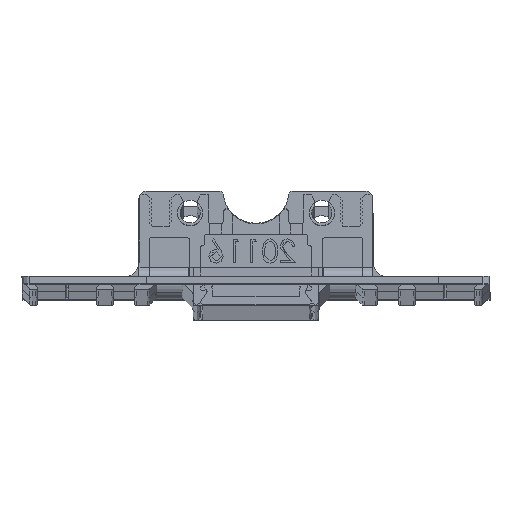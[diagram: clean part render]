
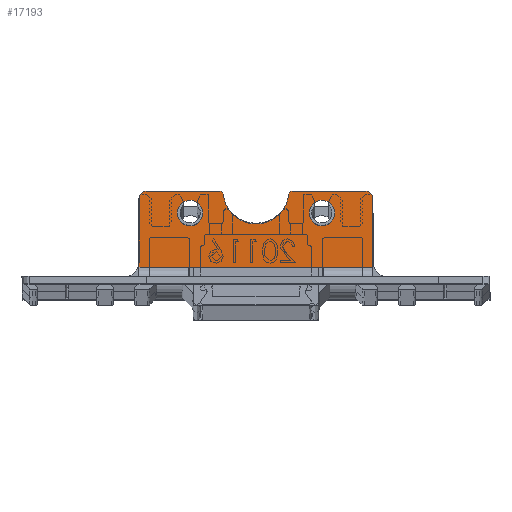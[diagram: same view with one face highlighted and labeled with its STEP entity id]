
A CAD part, top view. The second image highlights one B-rep face of the part: STEP entity #17193.
In plain terms, the highlighted planar face has unit normal (0, 0, 1) as drawn and (0, 0, -1) by its records, which use the part's own axes.
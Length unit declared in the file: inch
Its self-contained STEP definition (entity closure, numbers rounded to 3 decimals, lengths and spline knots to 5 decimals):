
#102 = CARTESIAN_POINT ( 'NONE',  ( 0.62992, 0.05, 0.05 ) ) ;
#500 = DIRECTION ( 'NONE',  ( 0., 0., 1. ) ) ;
#671 = CARTESIAN_POINT ( 'NONE',  ( 0.35433, 0.34252, 0.05 ) ) ;
#672 = CARTESIAN_POINT ( 'NONE',  ( 0.59055, 0.42126, 0.05 ) ) ;
#740 = EDGE_CURVE ( 'NONE', #5243, #17306, #959, .T. ) ;
#959 = LINE ( 'NONE', #13171, #8103 ) ;
#1015 = ORIENTED_EDGE ( 'NONE', *, *, #9947, .T. ) ;
#1080 = AXIS2_PLACEMENT_3D ( 'NONE', #10902, #9379, #2863 ) ;
#1181 = CARTESIAN_POINT ( 'NONE',  ( -0.59055, 0.46063, 0.05 ) ) ;
#1410 = ORIENTED_EDGE ( 'NONE', *, *, #7865, .T. ) ;
#1473 = VERTEX_POINT ( 'NONE', #13284 ) ;
#1632 = VECTOR ( 'NONE', #11829, 39.37008 ) ;
#1737 = VERTEX_POINT ( 'NONE', #16805 ) ;
#1841 = CIRCLE ( 'NONE', #3840, 0.0689 ) ;
#2124 = EDGE_CURVE ( 'NONE', #4856, #3633, #1841, .T. ) ;
#2170 = DIRECTION ( 'NONE',  ( 0., 0., -1. ) ) ;
#2206 = DIRECTION ( 'NONE',  ( -1., 0., 0. ) ) ;
#2339 = DIRECTION ( 'NONE',  ( -1., 0., 0. ) ) ;
#2432 = ORIENTED_EDGE ( 'NONE', *, *, #4843, .F. ) ;
#2495 = DIRECTION ( 'NONE',  ( -1., 0., 0. ) ) ;
#2622 = VERTEX_POINT ( 'NONE', #12866 ) ;
#2863 = DIRECTION ( 'NONE',  ( -1., 0., 0. ) ) ;
#3077 = EDGE_CURVE ( 'NONE', #12885, #17306, #16381, .T. ) ;
#3109 = CARTESIAN_POINT ( 'NONE',  ( -0.17628, 0.44291, 0.05 ) ) ;
#3333 = CIRCLE ( 'NONE', #12466, 0.0689 ) ;
#3566 = ORIENTED_EDGE ( 'NONE', *, *, #16196, .F. ) ;
#3633 = VERTEX_POINT ( 'NONE', #6075 ) ;
#3710 = DIRECTION ( 'NONE',  ( 1., 0., 0. ) ) ;
#3750 = DIRECTION ( 'NONE',  ( 0., 0., 1. ) ) ;
#3799 = LINE ( 'NONE', #17504, #16443 ) ;
#3840 = AXIS2_PLACEMENT_3D ( 'NONE', #671, #500, #5930 ) ;
#3857 = DIRECTION ( 'NONE',  ( -1., 0., 0. ) ) ;
#4413 = DIRECTION ( 'NONE',  ( 0., 0., -1. ) ) ;
#4806 = AXIS2_PLACEMENT_3D ( 'NONE', #13652, #3750, #2495 ) ;
#4842 = FACE_BOUND ( 'NONE', #10112, .T. ) ;
#4843 = EDGE_CURVE ( 'NONE', #16464, #14779, #4956, .T. ) ;
#4856 = VERTEX_POINT ( 'NONE', #10403 ) ;
#4905 = EDGE_CURVE ( 'NONE', #1473, #7249, #3799, .T. ) ;
#4956 = LINE ( 'NONE', #13352, #1632 ) ;
#5086 = AXIS2_PLACEMENT_3D ( 'NONE', #672, #14044, #11556 ) ;
#5243 = VERTEX_POINT ( 'NONE', #15711 ) ;
#5276 = DIRECTION ( 'NONE',  ( 0., -1., 0. ) ) ;
#5650 = ORIENTED_EDGE ( 'NONE', *, *, #10039, .T. ) ;
#5701 = EDGE_CURVE ( 'NONE', #7249, #2622, #11613, .T. ) ;
#5732 = CIRCLE ( 'NONE', #8569, 0.01969 ) ;
#5930 = DIRECTION ( 'NONE',  ( -1., 0., 0. ) ) ;
#6008 = DIRECTION ( 'NONE',  ( -1., 0., 0. ) ) ;
#6075 = CARTESIAN_POINT ( 'NONE',  ( 0.28543, 0.34252, 0.05 ) ) ;
#6133 = VERTEX_POINT ( 'NONE', #12196 ) ;
#6190 = CIRCLE ( 'NONE', #1080, 0.0689 ) ;
#6217 = CIRCLE ( 'NONE', #4806, 0.17717 ) ;
#6258 = CARTESIAN_POINT ( 'NONE',  ( -0.62992, 0.42126, 0.05 ) ) ;
#6345 = FACE_OUTER_BOUND ( 'NONE', #6488, .T. ) ;
#6353 = EDGE_LOOP ( 'NONE', ( #7742, #17086 ) ) ;
#6488 = EDGE_LOOP ( 'NONE', ( #1410, #1015, #2432, #8563, #12185, #17100, #3566, #9572, #17345, #5650 ) ) ;
#6506 = VECTOR ( 'NONE', #5276, 39.37008 ) ;
#6672 = EDGE_CURVE ( 'NONE', #1737, #13238, #3333, .T. ) ;
#6698 = PLANE ( 'NONE',  #13367 ) ;
#6708 = AXIS2_PLACEMENT_3D ( 'NONE', #13451, #13092, #2206 ) ;
#6790 = CIRCLE ( 'NONE', #15605, 0.0689 ) ;
#6911 = EDGE_CURVE ( 'NONE', #13238, #1737, #6190, .T. ) ;
#7249 = VERTEX_POINT ( 'NONE', #102 ) ;
#7742 = ORIENTED_EDGE ( 'NONE', *, *, #2124, .T. ) ;
#7865 = EDGE_CURVE ( 'NONE', #12000, #6133, #6217, .T. ) ;
#8103 = VECTOR ( 'NONE', #11748, 39.37008 ) ;
#8563 = ORIENTED_EDGE ( 'NONE', *, *, #15555, .T. ) ;
#8569 = AXIS2_PLACEMENT_3D ( 'NONE', #11375, #2170, #6008 ) ;
#8857 = CIRCLE ( 'NONE', #11158, 0.01969 ) ;
#9120 = CARTESIAN_POINT ( 'NONE',  ( 0., 0., 0.05 ) ) ;
#9379 = DIRECTION ( 'NONE',  ( 0., 0., 1. ) ) ;
#9490 = DIRECTION ( 'NONE',  ( -1., 0., 0. ) ) ;
#9572 = ORIENTED_EDGE ( 'NONE', *, *, #3077, .T. ) ;
#9642 = VECTOR ( 'NONE', #10629, 39.37008 ) ;
#9820 = ORIENTED_EDGE ( 'NONE', *, *, #6911, .T. ) ;
#9857 = DIRECTION ( 'NONE',  ( -1., 0., 0. ) ) ;
#9947 = EDGE_CURVE ( 'NONE', #6133, #14779, #8857, .T. ) ;
#10039 = EDGE_CURVE ( 'NONE', #5243, #12000, #5732, .T. ) ;
#10112 = EDGE_LOOP ( 'NONE', ( #9820, #15153 ) ) ;
#10353 = CARTESIAN_POINT ( 'NONE',  ( -0.28543, 0.34252, 0.05 ) ) ;
#10403 = CARTESIAN_POINT ( 'NONE',  ( 0.42323, 0.34252, 0.05 ) ) ;
#10629 = DIRECTION ( 'NONE',  ( 0., 1., 0. ) ) ;
#10838 = CARTESIAN_POINT ( 'NONE',  ( -0.35433, 0.34252, 0.05 ) ) ;
#10902 = CARTESIAN_POINT ( 'NONE',  ( -0.35433, 0.34252, 0.05 ) ) ;
#11014 = CARTESIAN_POINT ( 'NONE',  ( 0.19586, 0.46063, 0.05 ) ) ;
#11158 = AXIS2_PLACEMENT_3D ( 'NONE', #13613, #4413, #9857 ) ;
#11375 = CARTESIAN_POINT ( 'NONE',  ( -0.19586, 0.44094, 0.05 ) ) ;
#11556 = DIRECTION ( 'NONE',  ( -1., 0., 0. ) ) ;
#11613 = LINE ( 'NONE', #17014, #9642 ) ;
#11748 = DIRECTION ( 'NONE',  ( -1., 0., 0. ) ) ;
#11829 = DIRECTION ( 'NONE',  ( -1., 0., 0. ) ) ;
#11980 = LINE ( 'NONE', #17468, #6506 ) ;
#12000 = VERTEX_POINT ( 'NONE', #3109 ) ;
#12185 = ORIENTED_EDGE ( 'NONE', *, *, #5701, .F. ) ;
#12196 = CARTESIAN_POINT ( 'NONE',  ( 0.17628, 0.44291, 0.05 ) ) ;
#12466 = AXIS2_PLACEMENT_3D ( 'NONE', #10838, #16252, #9490 ) ;
#12768 = CIRCLE ( 'NONE', #5086, 0.03937 ) ;
#12866 = CARTESIAN_POINT ( 'NONE',  ( 0.62992, 0.42126, 0.05 ) ) ;
#12885 = VERTEX_POINT ( 'NONE', #6258 ) ;
#13092 = DIRECTION ( 'NONE',  ( 0., 0., -1. ) ) ;
#13134 = DIRECTION ( 'NONE',  ( 0., 0., -1. ) ) ;
#13171 = CARTESIAN_POINT ( 'NONE',  ( -0.62992, 0.46063, 0.05 ) ) ;
#13238 = VERTEX_POINT ( 'NONE', #10353 ) ;
#13284 = CARTESIAN_POINT ( 'NONE',  ( -0.62992, 0.05, 0.05 ) ) ;
#13352 = CARTESIAN_POINT ( 'NONE',  ( -0.62992, 0.46063, 0.05 ) ) ;
#13367 = AXIS2_PLACEMENT_3D ( 'NONE', #9120, #13134, #2339 ) ;
#13451 = CARTESIAN_POINT ( 'NONE',  ( -0.59055, 0.42126, 0.05 ) ) ;
#13613 = CARTESIAN_POINT ( 'NONE',  ( 0.19586, 0.44094, 0.05 ) ) ;
#13652 = CARTESIAN_POINT ( 'NONE',  ( 0., 0.46063, 0.05 ) ) ;
#14044 = DIRECTION ( 'NONE',  ( 0., 0., -1. ) ) ;
#14779 = VERTEX_POINT ( 'NONE', #11014 ) ;
#14818 = CARTESIAN_POINT ( 'NONE',  ( 0.35433, 0.34252, 0.05 ) ) ;
#15153 = ORIENTED_EDGE ( 'NONE', *, *, #6672, .T. ) ;
#15334 = CARTESIAN_POINT ( 'NONE',  ( 0.59055, 0.46063, 0.05 ) ) ;
#15555 = EDGE_CURVE ( 'NONE', #16464, #2622, #12768, .T. ) ;
#15605 = AXIS2_PLACEMENT_3D ( 'NONE', #14818, #17389, #3857 ) ;
#15711 = CARTESIAN_POINT ( 'NONE',  ( -0.19586, 0.46063, 0.05 ) ) ;
#16196 = EDGE_CURVE ( 'NONE', #12885, #1473, #11980, .T. ) ;
#16252 = DIRECTION ( 'NONE',  ( 0., 0., 1. ) ) ;
#16381 = CIRCLE ( 'NONE', #6708, 0.03937 ) ;
#16443 = VECTOR ( 'NONE', #3710, 39.37008 ) ;
#16464 = VERTEX_POINT ( 'NONE', #15334 ) ;
#16805 = CARTESIAN_POINT ( 'NONE',  ( -0.42323, 0.34252, 0.05 ) ) ;
#17014 = CARTESIAN_POINT ( 'NONE',  ( 0.62992, 0.46063, 0.05 ) ) ;
#17029 = FACE_BOUND ( 'NONE', #6353, .T. ) ;
#17086 = ORIENTED_EDGE ( 'NONE', *, *, #17303, .T. ) ;
#17100 = ORIENTED_EDGE ( 'NONE', *, *, #4905, .F. ) ;
#17193 = ADVANCED_FACE ( 'NONE', ( #17029, #4842, #6345 ), #6698, .T. ) ;
#17303 = EDGE_CURVE ( 'NONE', #3633, #4856, #6790, .T. ) ;
#17306 = VERTEX_POINT ( 'NONE', #1181 ) ;
#17345 = ORIENTED_EDGE ( 'NONE', *, *, #740, .F. ) ;
#17389 = DIRECTION ( 'NONE',  ( 0., 0., 1. ) ) ;
#17468 = CARTESIAN_POINT ( 'NONE',  ( -0.62992, 0., 0.05 ) ) ;
#17504 = CARTESIAN_POINT ( 'NONE',  ( -0.62992, 0.05, 0.05 ) ) ;
